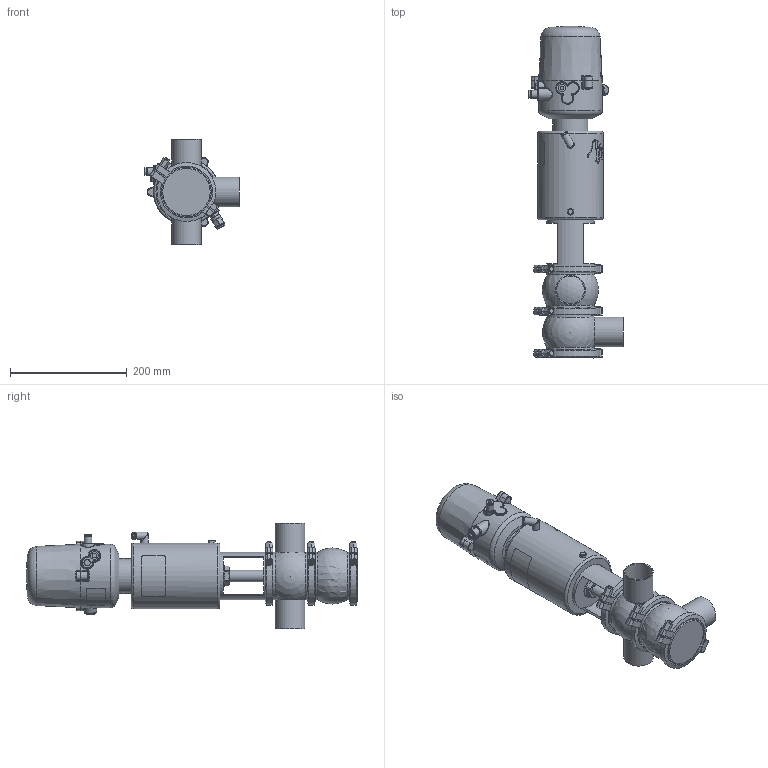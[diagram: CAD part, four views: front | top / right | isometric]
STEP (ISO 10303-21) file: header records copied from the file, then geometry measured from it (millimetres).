
FILE_DESCRIPTION (( 'STEP AP214' ), '1' );
FILE_NAME ('INNOVA M A W OD 2 T2 AS NC & C-TOP S_10.241.16.0037.STEP', '2024-08-07T07:03:10', ( '' ), ( '' ), 'SwSTEP 2.0', 'SolidWorks 2023', '' );
FILE_SCHEMA (( 'AUTOMOTIVE_DESIGN' ));
Length unit declared in the file: millimetre
Products named in the file (9): 10.240.15.0001_DN 050; INNOVA M A W OD 2 T2 AS NC & C-TOP S_10.241.16.0037; 10.240.15.0014_T2 AS P180; 10.240.15.0010_DN 050; 10.240.15.0007_OD 2"; 10.426.15.0001_C-TOP S - 1 EV; 10.240.15.0017_Estàndard; 10.240.15.0006_OD 2"; 10.241.15.0001_DIN 050
Assembly tree (10 placements, depth 2):
  INNOVA M A W OD 2 T2 AS NC & C-TOP S_10.241.16.0037
    10.240.15.0007_OD 2"
    10.240.15.0006_OD 2"
    10.240.15.0010_DN 050
    10.240.15.0014_T2 AS P180
    10.240.15.0017_Estàndard
    10.426.15.0001_C-TOP S - 1 EV
    10.240.15.0001_DN 050  x3
    10.241.15.0001_DIN 050
Bounding box: 161 x 568.27 x 180 mm (x, y, z)
Volume: 4182319.3 mm3; surface area: 393386.9 mm2
Topology: 11 solids, 11 shells, 1238 faces, 3004 edges, 1996 vertices
Faces by surface type: plane 443, cylinder 379, cone 211, bspline 160, torus 36, sphere 9
Full cylindrical faces by diameter (mm): 0.371 x17, 0.512 x16, 0.658 x16, 0.795 x16, 0.94 x15, 1.098 x15, 1.241 x13, 1.382 x13, 1.523 x11, 1.669 x10, 2.201 x1, 4 x2, 5.5 x2, 6 x2, 6.15 x1, 8 x8, 8.5 x1, 10 x1, 10.5 x1, 11 x2, 12.5 x3, 13 x2, 13.5 x2, 16 x1, 17 x3, 20 x3, 20.5 x1, 22 x2, 31 x1, 34.5 x3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
Entity records: 58096 total; most frequent: CARTESIAN_POINT 27764, ORIENTED_EDGE 4516, DIRECTION 3673, EDGE_CURVE 2258, VERTEX_POINT 1609, EDGE_LOOP 1579, AXIS2_PLACEMENT_3D 1508, FACE_OUTER_BOUND 1339
